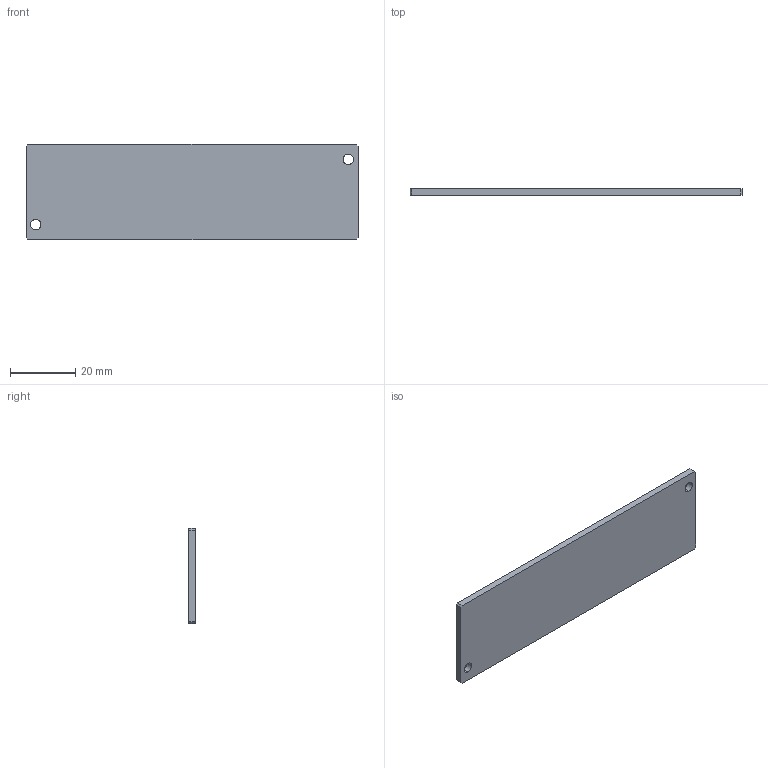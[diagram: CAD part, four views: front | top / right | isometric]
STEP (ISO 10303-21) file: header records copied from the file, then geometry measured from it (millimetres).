
FILE_DESCRIPTION (( 'STEP AP214' ), '1' );
FILE_NAME ('MLBX2-00-090-2-DIFFUSER.STEP', '2021-11-05T07:18:07', ( '' ), ( '' ), 'SwSTEP 2.0', 'SolidWorks 2021', '' );
FILE_SCHEMA (( 'AUTOMOTIVE_DESIGN' ));
Length unit declared in the file: millimetre
Products named in the file (1): MLBX2-00-090-2-DIFFUSER
Bounding box: 102 x 2 x 29.2 mm (x, y, z)
Volume: 5923.6 mm3; surface area: 6486.3 mm2
Topology: 1 solids, 1 shells, 14 faces, 36 edges, 24 vertices
Faces by surface type: plane 10, cylinder 4
Entity records: 470 total; most frequent: CARTESIAN_POINT 75, DIRECTION 74, ORIENTED_EDGE 72, EDGE_CURVE 36, VECTOR 28, LINE 28, VERTEX_POINT 24, AXIS2_PLACEMENT_3D 23
